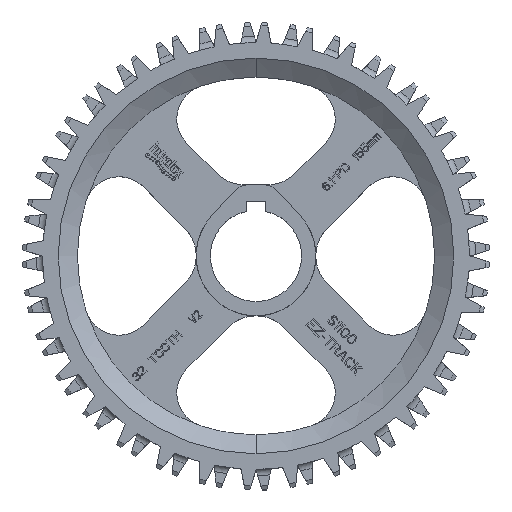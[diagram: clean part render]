
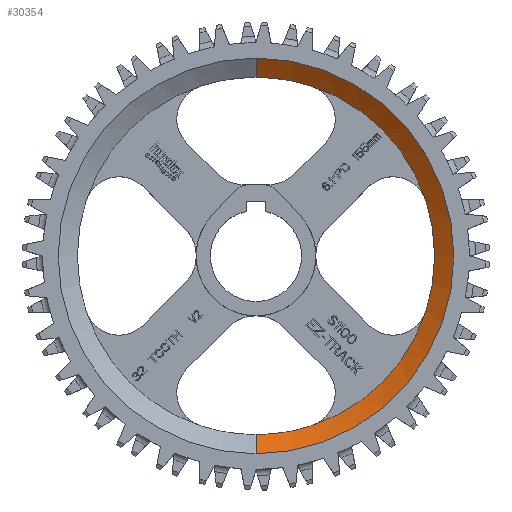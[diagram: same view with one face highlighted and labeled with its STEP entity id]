
A CAD part, top view. The second image highlights one B-rep face of the part: STEP entity #30354.
In plain terms, the highlighted conical face has half-angle 55.008 degrees and reference radius 62.246 mm.
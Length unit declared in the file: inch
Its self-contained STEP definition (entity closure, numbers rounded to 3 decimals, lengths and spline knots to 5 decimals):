
#1492=CARTESIAN_POINT('',(0.,0.,0.375));
#1493=DIRECTION('',(0.,0.,1.));
#1494=DIRECTION('',(0.,-1.,0.));
#1495=AXIS2_PLACEMENT_3D('',#1492,#1493,#1494);
#3852=CARTESIAN_POINT('',(0.,0.,0.2));
#3853=DIRECTION('',(0.,0.,1.));
#3854=DIRECTION('',(0.951,-0.31,0.));
#3855=AXIS2_PLACEMENT_3D('',#3852,#3853,#3854);
#3857=CARTESIAN_POINT('',(0.,0.,0.2));
#3858=DIRECTION('',(0.,0.,1.));
#3859=DIRECTION('',(0.31,0.951,0.));
#3860=AXIS2_PLACEMENT_3D('',#3857,#3858,#3859);
#3862=CARTESIAN_POINT('',(0.,0.,0.2));
#3863=DIRECTION('',(0.,0.,1.));
#3864=DIRECTION('',(0.,-1.,0.));
#3865=AXIS2_PLACEMENT_3D('',#3862,#3863,#3864);
#3880=CARTESIAN_POINT('',(0.,0.,0.2));
#3881=DIRECTION('',(0.,0.,-1.));
#3882=DIRECTION('',(0.31,0.951,0.));
#3883=AXIS2_PLACEMENT_3D('',#3880,#3881,#3882);
#3903=CARTESIAN_POINT('',(0.,0.,0.2));
#3904=DIRECTION('',(0.,0.,-1.));
#3905=DIRECTION('',(0.951,-0.31,0.));
#3906=AXIS2_PLACEMENT_3D('',#3903,#3904,#3905);
#8120=DIRECTION('',(0.,0.819,-0.573));
#8121=VECTOR('',#8120,0.30516);
#8122=CARTESIAN_POINT('',(0.,-2.57564,0.375));
#8123=LINE('',#8122,#8121);
#8124=DIRECTION('',(0.,-0.819,-0.573));
#8125=VECTOR('',#8124,0.30516);
#8126=CARTESIAN_POINT('',(0.,2.57564,0.375));
#8127=LINE('',#8126,#8125);
#21278=CARTESIAN_POINT('',(2.21116,-0.72068,0.2));
#21280=VERTEX_POINT('',#21278);
#21288=CARTESIAN_POINT('',(0.72068,-2.21116,
0.2));
#21289=VERTEX_POINT('',#21288);
#21294=CARTESIAN_POINT('',(2.21116,0.72068,
0.2));
#21296=VERTEX_POINT('',#21294);
#21298=CARTESIAN_POINT('',(0.72068,2.21116,
0.2));
#21300=VERTEX_POINT('',#21298);
#23290=CARTESIAN_POINT('',(0.,-2.57564,0.375));
#23291=CARTESIAN_POINT('',(0.,2.57564,0.375));
#23292=VERTEX_POINT('',#23290);
#23293=VERTEX_POINT('',#23291);
#23294=CARTESIAN_POINT('',(0.,2.32564,0.2));
#23295=VERTEX_POINT('',#23294);
#23298=CARTESIAN_POINT('',(0.,-2.32564,0.2));
#23299=VERTEX_POINT('',#23298);
#30332=CARTESIAN_POINT('',(0.,0.,0.2875));
#30333=DIRECTION('',(0.,0.,1.));
#30334=DIRECTION('',(0.,1.,0.));
#30335=AXIS2_PLACEMENT_3D('',#30332,#30333,#30334);
#30336=CONICAL_SURFACE('',#30335,2.45064,55.008);
#30338=ORIENTED_EDGE('',*,*,#30337,.F.);
#30340=ORIENTED_EDGE('',*,*,#30339,.T.);
#30342=ORIENTED_EDGE('',*,*,#30341,.F.);
#30344=ORIENTED_EDGE('',*,*,#30343,.T.);
#30346=ORIENTED_EDGE('',*,*,#30345,.F.);
#30347=ORIENTED_EDGE('',*,*,#28307,.F.);
#30349=ORIENTED_EDGE('',*,*,#30348,.T.);
#30351=ORIENTED_EDGE('',*,*,#30350,.T.);
#30352=EDGE_LOOP('',(#30338,#30340,#30342,#30344,#30346,#30347,#30349,#30351));
#30353=FACE_OUTER_BOUND('',#30352,.F.);
#30354=ADVANCED_FACE('',(#30353),#30336,.F.);
#1496=CIRCLE('',#1495,2.57564);
#3856=CIRCLE('',#3855,2.32564);
#3861=CIRCLE('',#3860,2.32564);
#3866=CIRCLE('',#3865,2.32564);
#3884=CIRCLE('',#3883,2.32564);
#3907=CIRCLE('',#3906,2.32564);
#28307=EDGE_CURVE('',#23292,#23293,#1496,.T.);
#30337=EDGE_CURVE('',#21280,#21289,#3907,.T.);
#30339=EDGE_CURVE('',#21280,#21296,#3856,.T.);
#30341=EDGE_CURVE('',#21300,#21296,#3884,.T.);
#30343=EDGE_CURVE('',#21300,#23295,#3861,.T.);
#30345=EDGE_CURVE('',#23293,#23295,#8127,.T.);
#30348=EDGE_CURVE('',#23292,#23299,#8123,.T.);
#30350=EDGE_CURVE('',#23299,#21289,#3866,.T.);
